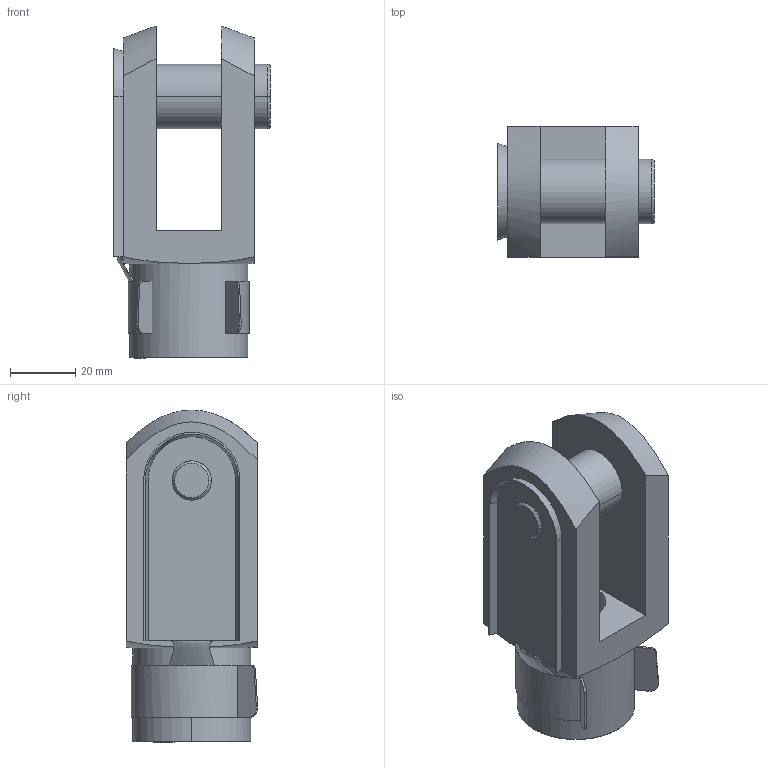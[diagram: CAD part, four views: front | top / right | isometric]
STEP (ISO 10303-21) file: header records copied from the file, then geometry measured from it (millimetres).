
FILE_DESCRIPTION(('CATIA V5 STEP Exchange'),'2;1');
FILE_NAME('C:\Users\m.sohrabi\Desktop\New folder\BAST-Y\Y 20.stp','2018-01-02T10:31:49+00:00',('none'),('none'),'CATIA Version 5-6 Release 2016','CATIA V5 STEP AP203','none');
FILE_SCHEMA(('CONFIG_CONTROL_DESIGN'));
Length unit declared in the file: millimetre
Products named in the file (1): Y 20
Bounding box: 48.01 x 40.14 x 101.57 mm (x, y, z)
Volume: 77781.2 mm3; surface area: 34100.4 mm2
Topology: 2 solids, 3 shells, 72 faces, 188 edges, 119 vertices
Faces by surface type: plane 30, cylinder 16, cone 8, torus 8, bspline 6, revolution 4
Entity records: 2786 total; most frequent: CARTESIAN_POINT 1133, ORIENTED_EDGE 376, DIRECTION 244, EDGE_CURVE 188, VERTEX_POINT 119, AXIS2_PLACEMENT_3D 115, EDGE_LOOP 79, VECTOR 75
